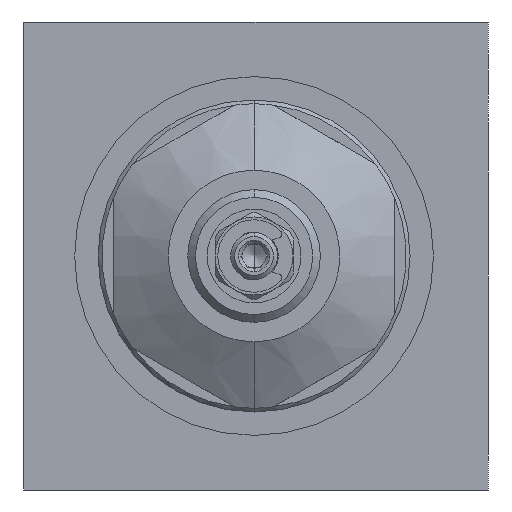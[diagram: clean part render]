
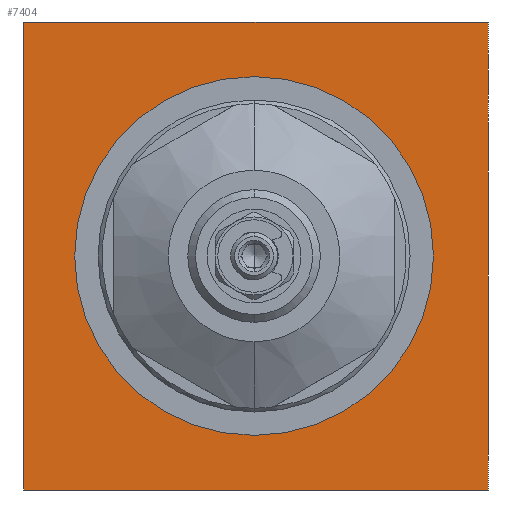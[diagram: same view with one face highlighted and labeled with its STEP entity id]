
A CAD part, left-side view. The second image highlights one B-rep face of the part: STEP entity #7404.
In plain terms, the highlighted planar face has unit normal (-1, 0, 0).
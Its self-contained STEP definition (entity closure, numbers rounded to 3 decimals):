
#266 = VERTEX_POINT ( 'NONE', #7897 ) ;
#558 = VERTEX_POINT ( 'NONE', #1494 ) ;
#1020 = VERTEX_POINT ( 'NONE', #4234 ) ;
#1364 = CIRCLE ( 'NONE', #2954, 23. ) ;
#1494 = CARTESIAN_POINT ( 'NONE',  ( 0., 29.75, -30. ) ) ;
#1542 = VERTEX_POINT ( 'NONE', #1581 ) ;
#1581 = CARTESIAN_POINT ( 'NONE',  ( 0., 0.25, 23. ) ) ;
#2349 = EDGE_LOOP ( 'NONE', ( #9586, #9550 ) ) ;
#2954 = AXIS2_PLACEMENT_3D ( 'NONE', #8697, #9430, #8686 ) ;
#3541 = EDGE_LOOP ( 'NONE', ( #9796, #9744, #9769, #9284 ) ) ;
#4184 = DIRECTION ( 'NONE',  ( 0., 0., 1. ) ) ;
#4199 = DIRECTION ( 'NONE',  ( -1., 0., 0. ) ) ;
#4202 = CARTESIAN_POINT ( 'NONE',  ( 0., 0.25, 0. ) ) ;
#4234 = CARTESIAN_POINT ( 'NONE',  ( 0., -29.75, -30. ) ) ;
#4313 = DIRECTION ( 'NONE',  ( 0., 0., 1. ) ) ;
#4350 = DIRECTION ( 'NONE',  ( 0., 0., -1. ) ) ;
#4384 = CARTESIAN_POINT ( 'NONE',  ( 0., 29.75, 30. ) ) ;
#4388 = DIRECTION ( 'NONE',  ( 0., -1., 0. ) ) ;
#4455 = CARTESIAN_POINT ( 'NONE',  ( 0., -29.75, 30. ) ) ;
#4495 = CARTESIAN_POINT ( 'NONE',  ( 0., -29.75, 30. ) ) ;
#4543 = DIRECTION ( 'NONE',  ( 0., 1., 0. ) ) ;
#4565 = CARTESIAN_POINT ( 'NONE',  ( 0., -29.75, -30. ) ) ;
#7404 = ADVANCED_FACE ( 'NONE', ( #9450, #11356 ), #11726, .T. ) ;
#7897 = CARTESIAN_POINT ( 'NONE',  ( 0., -29.75, 30. ) ) ;
#8686 = DIRECTION ( 'NONE',  ( 0., 0., 1. ) ) ;
#8697 = CARTESIAN_POINT ( 'NONE',  ( 0., 0.25, 0. ) ) ;
#8829 = CIRCLE ( 'NONE', #11552, 23. ) ;
#8843 = VECTOR ( 'NONE', #4313, 1000. ) ;
#8877 = VECTOR ( 'NONE', #4388, 1000. ) ;
#8898 = LINE ( 'NONE', #4384, #8843 ) ;
#8935 = LINE ( 'NONE', #4455, #8877 ) ;
#8939 = VECTOR ( 'NONE', #4543, 1000. ) ;
#8952 = LINE ( 'NONE', #4495, #9011 ) ;
#8956 = LINE ( 'NONE', #4565, #8939 ) ;
#9011 = VECTOR ( 'NONE', #4350, 1000. ) ;
#9284 = ORIENTED_EDGE ( 'NONE', *, *, #11524, .F. ) ;
#9357 = EDGE_CURVE ( 'NONE', #10763, #1542, #1364, .T. ) ;
#9430 = DIRECTION ( 'NONE',  ( -1., 0., 0. ) ) ;
#9450 = FACE_OUTER_BOUND ( 'NONE', #3541, .T. ) ;
#9516 = CARTESIAN_POINT ( 'NONE',  ( 0., 29.75, 30. ) ) ;
#9550 = ORIENTED_EDGE ( 'NONE', *, *, #9357, .F. ) ;
#9586 = ORIENTED_EDGE ( 'NONE', *, *, #11539, .F. ) ;
#9744 = ORIENTED_EDGE ( 'NONE', *, *, #11510, .F. ) ;
#9769 = ORIENTED_EDGE ( 'NONE', *, *, #11522, .F. ) ;
#9796 = ORIENTED_EDGE ( 'NONE', *, *, #11488, .F. ) ;
#9918 = CARTESIAN_POINT ( 'NONE',  ( 0., 0.25, -23. ) ) ;
#10763 = VERTEX_POINT ( 'NONE', #9918 ) ;
#10811 = VERTEX_POINT ( 'NONE', #9516 ) ;
#11308 = AXIS2_PLACEMENT_3D ( 'NONE', #11808, #11822, #11824 ) ;
#11356 = FACE_BOUND ( 'NONE', #2349, .T. ) ;
#11488 = EDGE_CURVE ( 'NONE', #1020, #558, #8956, .T. ) ;
#11510 = EDGE_CURVE ( 'NONE', #266, #1020, #8952, .T. ) ;
#11522 = EDGE_CURVE ( 'NONE', #10811, #266, #8935, .T. ) ;
#11524 = EDGE_CURVE ( 'NONE', #558, #10811, #8898, .T. ) ;
#11539 = EDGE_CURVE ( 'NONE', #1542, #10763, #8829, .T. ) ;
#11552 = AXIS2_PLACEMENT_3D ( 'NONE', #4202, #4199, #4184 ) ;
#11726 = PLANE ( 'NONE',  #11308 ) ;
#11808 = CARTESIAN_POINT ( 'NONE',  ( 0., 29.75, -30. ) ) ;
#11822 = DIRECTION ( 'NONE',  ( -1., 0., 0. ) ) ;
#11824 = DIRECTION ( 'NONE',  ( 0., 0., 1. ) ) ;
